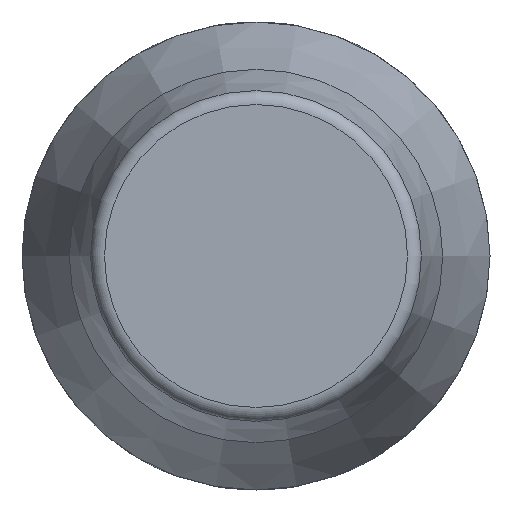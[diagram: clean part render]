
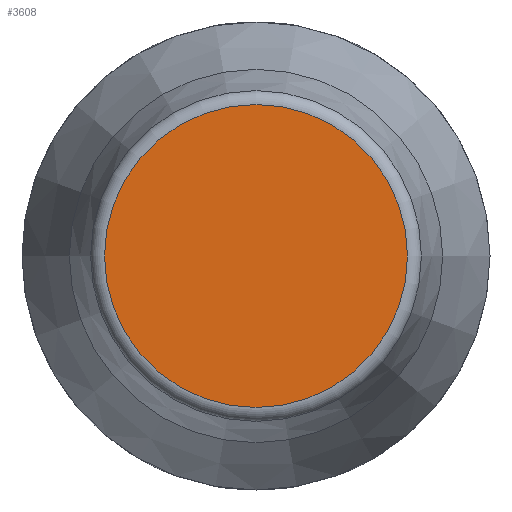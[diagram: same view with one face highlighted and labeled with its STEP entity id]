
A CAD part, left-side view. The second image highlights one B-rep face of the part: STEP entity #3608.
In plain terms, the highlighted planar face has unit normal (-1, 0, 0).
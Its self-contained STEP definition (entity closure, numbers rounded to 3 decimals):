
#200 = DIRECTION ( 'NONE',  ( 1., 0., 0. ) ) ;
#492 = DIRECTION ( 'NONE',  ( 0., 0., 1. ) ) ;
#1237 = CARTESIAN_POINT ( 'NONE',  ( -25.649, 0.099, -7.776 ) ) ;
#1384 = AXIS2_PLACEMENT_3D ( 'NONE', #2098, #200, #1833 ) ;
#1636 = CARTESIAN_POINT ( 'NONE',  ( -25.649, 2.566, -7.776 ) ) ;
#1833 = DIRECTION ( 'NONE',  ( 0., 1., 0. ) ) ;
#2098 = CARTESIAN_POINT ( 'NONE',  ( -25.649, -2.776, -7.776 ) ) ;
#2218 = AXIS2_PLACEMENT_3D ( 'NONE', #1237, #2423, #492 ) ;
#2334 = PLANE ( 'NONE',  #2218 ) ;
#2423 = DIRECTION ( 'NONE',  ( -1., 0., 0. ) ) ;
#2556 = FACE_OUTER_BOUND ( 'NONE', #3188, .T. ) ;
#3188 = EDGE_LOOP ( 'NONE', ( #3956 ) ) ;
#3608 = ADVANCED_FACE ( 'NONE', ( #2556 ), #2334, .T. ) ;
#3840 = EDGE_CURVE ( 'NONE', #4806, #4806, #4416, .T. ) ;
#3956 = ORIENTED_EDGE ( 'NONE', *, *, #3840, .F. ) ;
#4416 = CIRCLE ( 'NONE', #1384, 5.342 ) ;
#4806 = VERTEX_POINT ( 'NONE', #1636 ) ;
